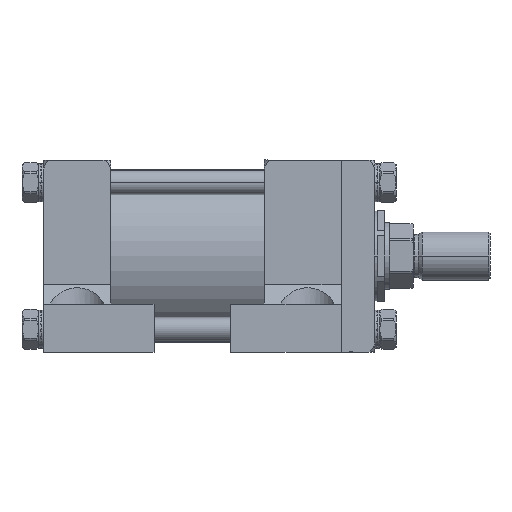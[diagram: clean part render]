
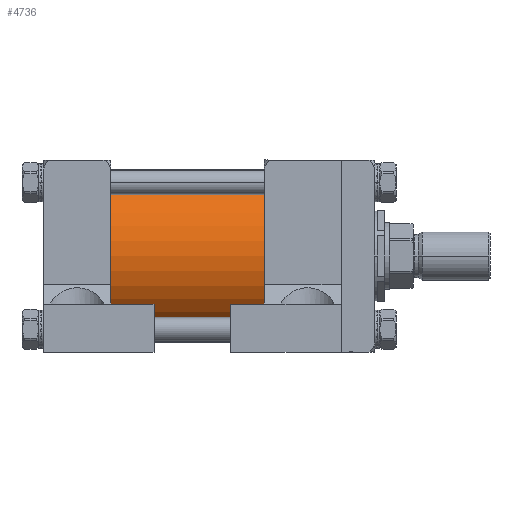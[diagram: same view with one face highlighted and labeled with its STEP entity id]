
A CAD part, front view. The second image highlights one B-rep face of the part: STEP entity #4736.
In plain terms, the highlighted cylindrical face has radius 57.15 mm (diameter 114.3 mm), a partial arc.
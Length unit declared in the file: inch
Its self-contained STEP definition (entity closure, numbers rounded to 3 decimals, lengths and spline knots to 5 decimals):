
#2453 = DIRECTION ( 'NONE',  ( 1., 0., 0. ) ) ;
#3888 = ORIENTED_EDGE ( 'NONE', *, *, #40060, .T. ) ;
#4736 = ADVANCED_FACE ( 'NONE', ( #28704 ), #52067, .T. ) ;
#5167 = AXIS2_PLACEMENT_3D ( 'NONE', #12741, #8041, #27049 ) ;
#7113 = ORIENTED_EDGE ( 'NONE', *, *, #52364, .F. ) ;
#8041 = DIRECTION ( 'NONE',  ( 1., 0., 0. ) ) ;
#8573 = VECTOR ( 'NONE', #2453, 39.37008 ) ;
#9426 = CARTESIAN_POINT ( 'NONE',  ( -8.125, 0., 0. ) ) ;
#11189 = DIRECTION ( 'NONE',  ( 1., 0., 0. ) ) ;
#12741 = CARTESIAN_POINT ( 'NONE',  ( -3.625, 0., 0. ) ) ;
#14419 = DIRECTION ( 'NONE',  ( 1., 0., 0. ) ) ;
#15958 = CARTESIAN_POINT ( 'NONE',  ( -8.125, 0., 2.25 ) ) ;
#17622 = AXIS2_PLACEMENT_3D ( 'NONE', #9426, #14419, #43070 ) ;
#19254 = VERTEX_POINT ( 'NONE', #57611 ) ;
#20643 = VERTEX_POINT ( 'NONE', #42167 ) ;
#21010 = LINE ( 'NONE', #40016, #39200 ) ;
#23159 = EDGE_CURVE ( 'NONE', #20643, #52726, #29097, .T. ) ;
#26774 = ORIENTED_EDGE ( 'NONE', *, *, #54513, .T. ) ;
#27049 = DIRECTION ( 'NONE',  ( 0., 1., 0. ) ) ;
#28704 = FACE_OUTER_BOUND ( 'NONE', #46730, .T. ) ;
#29097 = CIRCLE ( 'NONE', #5167, 2.25 ) ;
#30160 = DIRECTION ( 'NONE',  ( 0., 1., 0. ) ) ;
#33436 = AXIS2_PLACEMENT_3D ( 'NONE', #53825, #11189, #30160 ) ;
#35380 = CIRCLE ( 'NONE', #33436, 2.25 ) ;
#39200 = VECTOR ( 'NONE', #54017, 39.37008 ) ;
#39560 = LINE ( 'NONE', #58827, #8573 ) ;
#40016 = CARTESIAN_POINT ( 'NONE',  ( -8.125, 0., -2.25 ) ) ;
#40060 = EDGE_CURVE ( 'NONE', #49520, #19254, #35380, .T. ) ;
#42167 = CARTESIAN_POINT ( 'NONE',  ( -3.625, 0., 2.25 ) ) ;
#42295 = ORIENTED_EDGE ( 'NONE', *, *, #23159, .F. ) ;
#43070 = DIRECTION ( 'NONE',  ( 0., 0., -1. ) ) ;
#46730 = EDGE_LOOP ( 'NONE', ( #7113, #3888, #26774, #42295 ) ) ;
#47503 = CARTESIAN_POINT ( 'NONE',  ( -3.625, 0., -2.25 ) ) ;
#49520 = VERTEX_POINT ( 'NONE', #15958 ) ;
#52067 = CYLINDRICAL_SURFACE ( 'NONE', #17622, 2.25 ) ;
#52364 = EDGE_CURVE ( 'NONE', #49520, #20643, #39560, .T. ) ;
#52726 = VERTEX_POINT ( 'NONE', #47503 ) ;
#53825 = CARTESIAN_POINT ( 'NONE',  ( -8.125, 0., 0. ) ) ;
#54017 = DIRECTION ( 'NONE',  ( 1., 0., 0. ) ) ;
#54513 = EDGE_CURVE ( 'NONE', #19254, #52726, #21010, .T. ) ;
#57611 = CARTESIAN_POINT ( 'NONE',  ( -8.125, 0., -2.25 ) ) ;
#58827 = CARTESIAN_POINT ( 'NONE',  ( -8.125, 0., 2.25 ) ) ;
